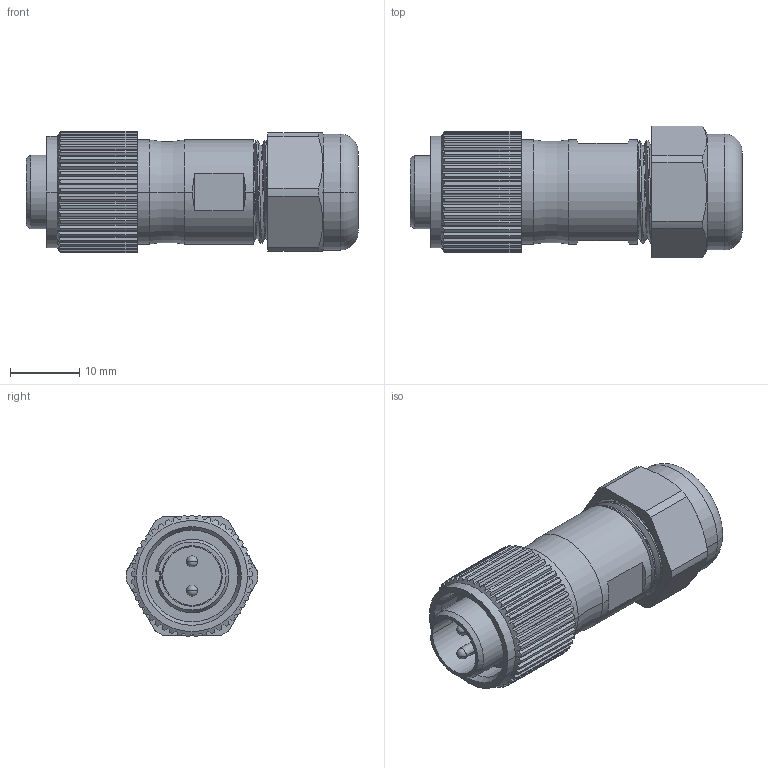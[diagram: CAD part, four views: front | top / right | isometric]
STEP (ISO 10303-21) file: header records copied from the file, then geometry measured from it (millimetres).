
FILE_DESCRIPTION((''),'2;1');
FILE_NAME('ST1210S5','2017-08-15T',('Administrator'),(''),'PRO/ENGINEER BY PARAMETRIC TECHNOLOGY CORPORATION, 2015240','PRO/ENGINEER BY PARAMETRIC TECHNOLOGY CORPORATION, 2015240','');
FILE_SCHEMA(('CONFIG_CONTROL_DESIGN'));
Length unit declared in the file: millimetre
Products named in the file (1): ST1210S5
Bounding box: 47.8 x 19 x 17.49 mm (x, y, z)
Volume: 8585.9 mm3; surface area: 4480.7 mm2
Topology: 1 solids, 1 shells, 273 faces, 772 edges, 509 vertices
Faces by surface type: plane 165, cylinder 83, cone 11, torus 6, bspline 4, sphere 4
Entity records: 10752 total; most frequent: CARTESIAN_POINT 3826, ORIENTED_EDGE 1536, DIRECTION 1323, EDGE_CURVE 768, VERTEX_POINT 509, AXIS2_PLACEMENT_3D 463, VECTOR 397, LINE 397
